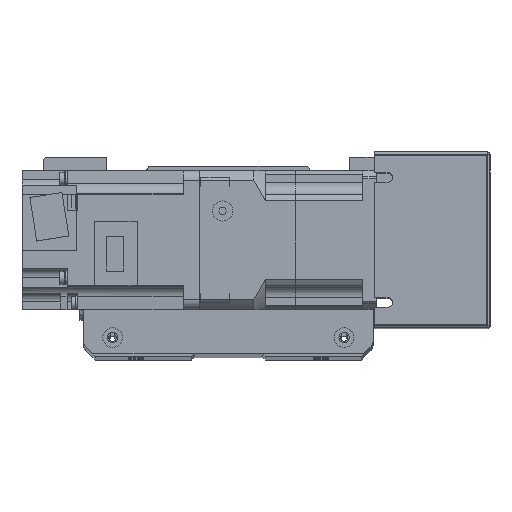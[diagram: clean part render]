
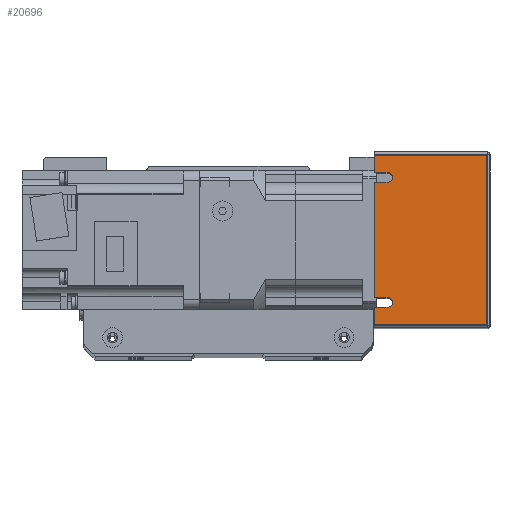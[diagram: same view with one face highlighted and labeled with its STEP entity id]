
A CAD part, top view. The second image highlights one B-rep face of the part: STEP entity #20696.
In plain terms, the highlighted planar face has unit normal (0, 0, 1) as drawn and (-1, 0, 0) by its records, which use the part's own axes.
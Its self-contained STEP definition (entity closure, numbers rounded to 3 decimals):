
#665=PLANE('',#22885);
#1995=LINE('',#34601,#3619);
#2002=LINE('',#34617,#3626);
#2011=LINE('',#34637,#3635);
#2019=LINE('',#34655,#3643);
#2034=LINE('',#34698,#3658);
#2036=LINE('',#34705,#3660);
#2039=LINE('',#34714,#3663);
#2044=LINE('',#34728,#3668);
#2045=LINE('',#34730,#3669);
#2046=LINE('',#34731,#3670);
#3619=VECTOR('',#28164,10.);
#3626=VECTOR('',#28175,10.);
#3635=VECTOR('',#28188,10.);
#3643=VECTOR('',#28200,10.);
#3658=VECTOR('',#28245,10.);
#3660=VECTOR('',#28253,10.);
#3663=VECTOR('',#28262,10.);
#3668=VECTOR('',#28275,10.);
#3669=VECTOR('',#28276,10.);
#3670=VECTOR('',#28277,10.);
#5992=FACE_OUTER_BOUND('',#7596,.T.);
#7596=EDGE_LOOP('',(#17972,#17973,#17974,#17975,#17976,#17977,#17978,#17979,
#17980,#17981,#17982,#17983));
#8734=CIRCLE('',#22864,2.);
#8739=CIRCLE('',#22872,2.);
#10419=VERTEX_POINT('',#34598);
#10420=VERTEX_POINT('',#34600);
#10426=VERTEX_POINT('',#34614);
#10427=VERTEX_POINT('',#34616);
#10435=VERTEX_POINT('',#34634);
#10436=VERTEX_POINT('',#34636);
#10443=VERTEX_POINT('',#34652);
#10444=VERTEX_POINT('',#34654);
#10457=VERTEX_POINT('',#34697);
#10462=VERTEX_POINT('',#34712);
#10467=VERTEX_POINT('',#34727);
#10468=VERTEX_POINT('',#34729);
#12967=EDGE_CURVE('',#10419,#10420,#1995,.T.);
#12974=EDGE_CURVE('',#10426,#10427,#2002,.T.);
#12983=EDGE_CURVE('',#10435,#10436,#2011,.T.);
#12991=EDGE_CURVE('',#10443,#10444,#2019,.T.);
#12998=EDGE_CURVE('',#10427,#10419,#8734,.T.);
#13009=EDGE_CURVE('',#10444,#10435,#8739,.T.);
#13015=EDGE_CURVE('',#10457,#10436,#2034,.T.);
#13019=EDGE_CURVE('',#10443,#10420,#2036,.T.);
#13024=EDGE_CURVE('',#10426,#10462,#2039,.T.);
#13031=EDGE_CURVE('',#10462,#10467,#2044,.T.);
#13032=EDGE_CURVE('',#10467,#10468,#2045,.T.);
#13033=EDGE_CURVE('',#10468,#10457,#2046,.T.);
#17972=ORIENTED_EDGE('',*,*,#12967,.F.);
#17973=ORIENTED_EDGE('',*,*,#12998,.F.);
#17974=ORIENTED_EDGE('',*,*,#12974,.F.);
#17975=ORIENTED_EDGE('',*,*,#13024,.T.);
#17976=ORIENTED_EDGE('',*,*,#13031,.T.);
#17977=ORIENTED_EDGE('',*,*,#13032,.T.);
#17978=ORIENTED_EDGE('',*,*,#13033,.T.);
#17979=ORIENTED_EDGE('',*,*,#13015,.T.);
#17980=ORIENTED_EDGE('',*,*,#12983,.F.);
#17981=ORIENTED_EDGE('',*,*,#13009,.F.);
#17982=ORIENTED_EDGE('',*,*,#12991,.F.);
#17983=ORIENTED_EDGE('',*,*,#13019,.T.);
#20696=ADVANCED_FACE('',(#5992),#665,.F.);
#22864=AXIS2_PLACEMENT_3D('',#34668,#28212,#28213);
#22872=AXIS2_PLACEMENT_3D('',#34686,#28234,#28235);
#22885=AXIS2_PLACEMENT_3D('',#34726,#28273,#28274);
#28164=DIRECTION('',(0.,0.,-1.));
#28175=DIRECTION('',(0.,0.,1.));
#28188=DIRECTION('',(0.,0.,-1.));
#28200=DIRECTION('',(0.,0.,1.));
#28212=DIRECTION('center_axis',(-1.,0.,0.));
#28213=DIRECTION('ref_axis',(0.,0.,-1.));
#28234=DIRECTION('center_axis',(-1.,0.,0.));
#28235=DIRECTION('ref_axis',(0.,0.,-1.));
#28245=DIRECTION('',(0.,-1.,0.));
#28253=DIRECTION('',(0.,-1.,0.));
#28262=DIRECTION('',(0.,-1.,0.));
#28273=DIRECTION('center_axis',(1.,0.,0.));
#28274=DIRECTION('ref_axis',(0.,-1.,0.));
#28275=DIRECTION('',(0.,0.,1.));
#28276=DIRECTION('',(0.,1.,0.));
#28277=DIRECTION('',(0.,0.,-1.));
#34598=CARTESIAN_POINT('',(-91.,-25.,-19.));
#34600=CARTESIAN_POINT('',(-91.,-25.,-25.));
#34601=CARTESIAN_POINT('',(-91.,-25.,-9.5));
#34614=CARTESIAN_POINT('',(-91.,-29.,-25.));
#34616=CARTESIAN_POINT('',(-91.,-29.,-19.));
#34617=CARTESIAN_POINT('',(-91.,-29.,-15.178));
#34634=CARTESIAN_POINT('',(-91.,29.,-19.));
#34636=CARTESIAN_POINT('',(-91.,29.,-25.));
#34637=CARTESIAN_POINT('',(-91.,29.,-9.5));
#34652=CARTESIAN_POINT('',(-91.,25.,-25.));
#34654=CARTESIAN_POINT('',(-91.,25.,-19.));
#34655=CARTESIAN_POINT('',(-91.,25.,-15.178));
#34668=CARTESIAN_POINT('Origin',(-91.,-27.,-19.));
#34686=CARTESIAN_POINT('Origin',(-91.,27.,-19.));
#34697=CARTESIAN_POINT('',(-91.,37.,-25.));
#34698=CARTESIAN_POINT('',(-91.,-38.,-25.));
#34705=CARTESIAN_POINT('',(-91.,-38.,-25.));
#34712=CARTESIAN_POINT('',(-91.,-37.,-25.));
#34714=CARTESIAN_POINT('',(-91.,-38.,-25.));
#34726=CARTESIAN_POINT('Origin',(-91.,38.,0.));
#34727=CARTESIAN_POINT('',(-91.,-37.,24.));
#34728=CARTESIAN_POINT('',(-91.,-37.,0.));
#34729=CARTESIAN_POINT('',(-91.,37.,24.));
#34730=CARTESIAN_POINT('',(-91.,19.,24.));
#34731=CARTESIAN_POINT('',(-91.,37.,0.));
